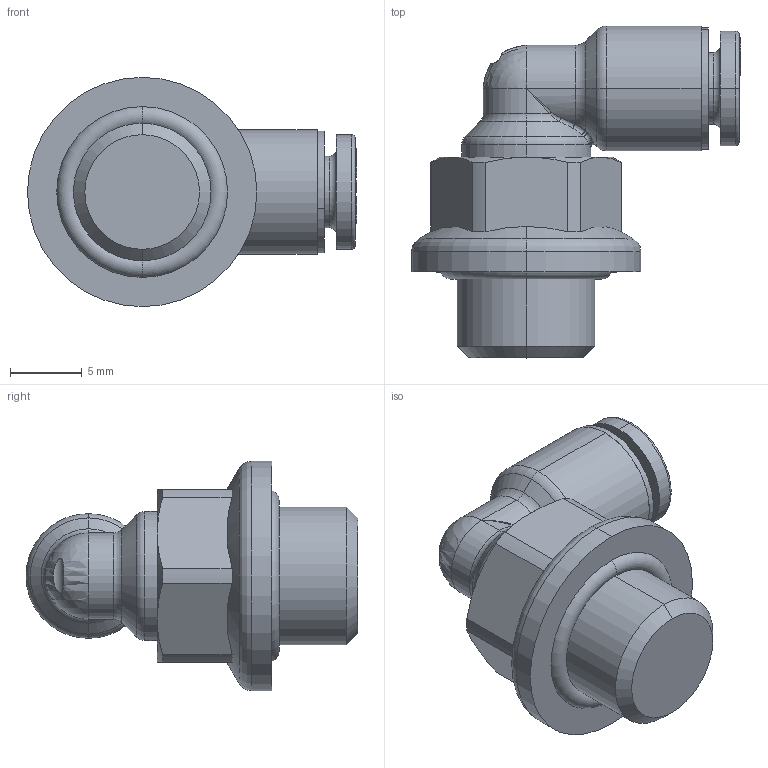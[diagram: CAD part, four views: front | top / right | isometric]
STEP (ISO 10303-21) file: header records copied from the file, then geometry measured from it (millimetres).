
FILE_DESCRIPTION (( 'STEP AP214' ), '1' );
FILE_NAME ('5411600004A.STEP', '2024-09-19T14:14:35', ( '' ), ( '' ), 'SwSTEP 2.0', 'SolidWorks 2020', '' );
FILE_SCHEMA (( 'AUTOMOTIVE_DESIGN' ));
Length unit declared in the file: millimetre
Products named in the file (1): 5411600004A
Bounding box: 22.95 x 23.15 x 16 mm (x, y, z)
Volume: 2334.5 mm3; surface area: 1557.2 mm2
Topology: 1 solids, 3 shells, 298 faces, 768 edges, 492 vertices
Faces by surface type: plane 151, bspline 75, cylinder 33, cone 19, torus 19, sphere 1
Entity records: 13450 total; most frequent: CARTESIAN_POINT 3454, ORIENTED_EDGE 1528, DIRECTION 1154, EDGE_CURVE 764, VERTEX_POINT 492, VECTOR 474, LINE 474, AXIS2_PLACEMENT_3D 340
